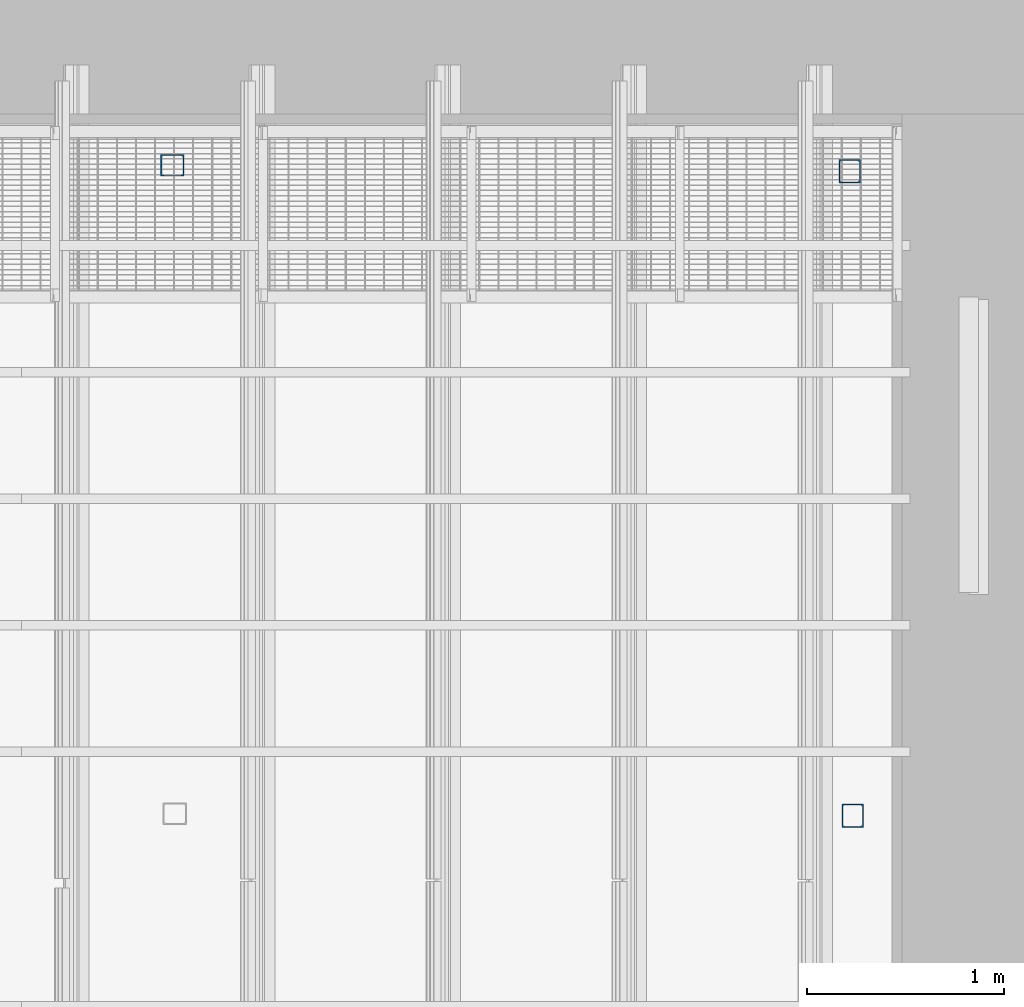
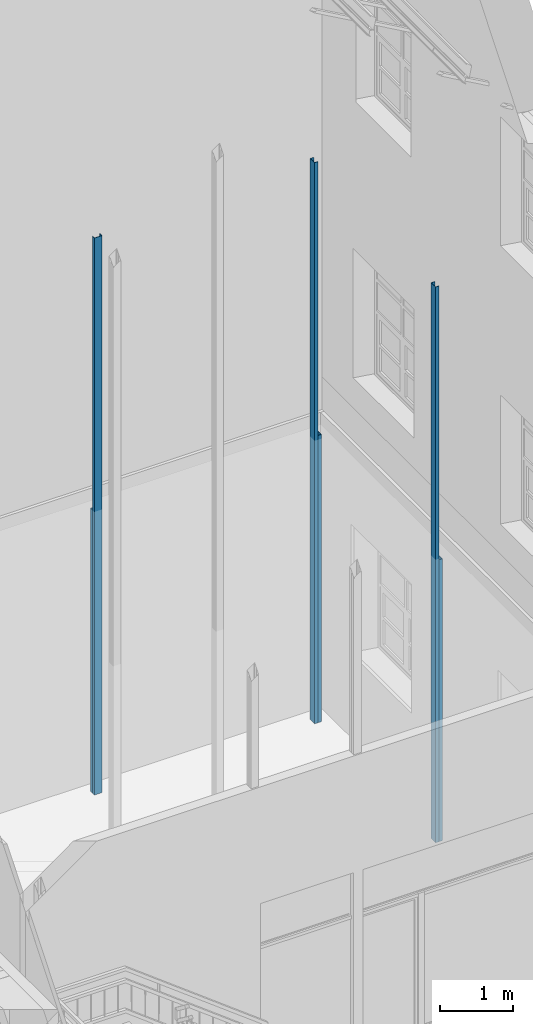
# One storey, part 14 of 75: 6 columns.
"""IFC2X3 building model written with IfcOpenShell, lengths in metres."""

from ifc_helpers import new_model, entity, si_unit, converted_unit, derived_unit, direction, frame, frame_2d, origin, place, context, subcontext, project, spatial, polyline, circle_curve, parameter, trimmed, segment, composite_curve, outline, extrude, source, transform, mapped, material, type_object, type_shapes, element, save


model = new_model("IFC2X3")

# Units and contexts
model_context = context("Model", 3, precision=1e-05, world=origin(), true_north=direction((6.12303176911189e-17, 1.0)))
body_context = subcontext(model_context, "Body", "Model", "MODEL_VIEW")
ifc_project = project(units=[si_unit("LENGTHUNIT", "METRE"), si_unit("AREAUNIT", "SQUARE_METRE"), si_unit("VOLUMEUNIT", "CUBIC_METRE"), converted_unit("PLANEANGLEUNIT", "DEGREE", entity("IfcRatioMeasure", 0.0174532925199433), si_unit("PLANEANGLEUNIT", "RADIAN"), dimensions=[0, 0, 0, 0, 0, 0, 0]), si_unit("MASSUNIT", "GRAM", prefix="KILO"), derived_unit("MASSDENSITYUNIT", [(si_unit("MASSUNIT", "GRAM", prefix="KILO"), 1), (si_unit("LENGTHUNIT", "METRE"), -3)]), derived_unit("MOMENTOFINERTIAUNIT", [(si_unit("LENGTHUNIT", "METRE"), 4)]), si_unit("TIMEUNIT", "SECOND"), si_unit("FREQUENCYUNIT", "HERTZ"), si_unit("THERMODYNAMICTEMPERATUREUNIT", "DEGREE_CELSIUS"), derived_unit("THERMALTRANSMITTANCEUNIT", [(si_unit("MASSUNIT", "GRAM", prefix="KILO"), 1), (si_unit("THERMODYNAMICTEMPERATUREUNIT", "KELVIN"), -1), (si_unit("TIMEUNIT", "SECOND"), -3)]), derived_unit("VOLUMETRICFLOWRATEUNIT", [(si_unit("LENGTHUNIT", "METRE"), 3), (si_unit("TIMEUNIT", "SECOND"), -1)]), si_unit("ELECTRICCURRENTUNIT", "AMPERE"), si_unit("ELECTRICVOLTAGEUNIT", "VOLT"), si_unit("POWERUNIT", "WATT"), si_unit("FORCEUNIT", "NEWTON", prefix="KILO"), si_unit("ILLUMINANCEUNIT", "LUX"), si_unit("LUMINOUSFLUXUNIT", "LUMEN"), si_unit("LUMINOUSINTENSITYUNIT", "CANDELA"), derived_unit("USERDEFINED", [(si_unit("MASSUNIT", "GRAM", prefix="KILO"), -1), (si_unit("LENGTHUNIT", "METRE"), -2), (si_unit("TIMEUNIT", "SECOND"), 3), (si_unit("LUMINOUSFLUXUNIT", "LUMEN"), 1)]), derived_unit("LINEARVELOCITYUNIT", [(si_unit("LENGTHUNIT", "METRE"), 1), (si_unit("TIMEUNIT", "SECOND"), -1)]), si_unit("PRESSUREUNIT", "PASCAL"), derived_unit("USERDEFINED", [(si_unit("LENGTHUNIT", "METRE"), -2), (si_unit("MASSUNIT", "GRAM", prefix="KILO"), 1), (si_unit("TIMEUNIT", "SECOND"), -2)]), derived_unit("LINEARFORCEUNIT", [(si_unit("MASSUNIT", "GRAM", prefix="KILO"), 1), (si_unit("LENGTHUNIT", "METRE"), 1), (si_unit("TIMEUNIT", "SECOND"), -2), (si_unit("LENGTHUNIT", "METRE"), -1)]), derived_unit("PLANARFORCEUNIT", [(si_unit("MASSUNIT", "GRAM", prefix="KILO"), 1), (si_unit("LENGTHUNIT", "METRE"), 1), (si_unit("TIMEUNIT", "SECOND"), -2), (si_unit("LENGTHUNIT", "METRE"), -2)])], contexts=[model_context])

# Site, building, storey
site_placement = place(None, origin())
site = spatial("IfcSite", under=ifc_project, at=site_placement, Name="Superficie", CompositionType="ELEMENT")
building_placement = place(site_placement, origin())
building = spatial("IfcBuilding", under=site, at=building_placement, Name="Telegestiones", CompositionType="ELEMENT")
storey_placement = place(building_placement, origin())
storey = spatial("IfcBuildingStorey", under=building, at=storey_placement, Name="Nivel 0_NPT", CompositionType="ELEMENT", Elevation=0.0)

# Columns
ifc_material = material(Name="Metal - Acero - 345 MPa")
column_type_1 = type_object("IfcColumnType", Name="UPE - Canales de ala paralela - Pilar:UPE 120", PredefinedType="COLUMN", material=ifc_material)
shared_shape_1 = source(origin(), body_context, "Body", "SweptSolid", [
    extrude(outline(composite_curve([segment(polyline([(-0.0599999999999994, -0.0264), (0.0600000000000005, -0.0264)]), True, "CONTINUOUS"), segment(polyline([(0.0600000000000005, -0.0264), (0.0600000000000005, 0.0286)]), True, "CONTINUOUS"), segment(polyline([(0.0600000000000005, 0.0286), (0.0539999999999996, 0.0286)]), True, "CONTINUOUS"), segment(polyline([(0.0539999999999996, 0.0286), (0.0539999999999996, -0.00939999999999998)]), True, "CONTINUOUS"), segment(trimmed(circle_curve(frame_2d((0.0419999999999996, -0.0094), x_axis=(1.0, 0.0)), 0.012), [parameter(270.0)], [parameter(0.0)], True, "PARAMETER"), False, "CONTINUOUS"), segment(polyline([(0.0419999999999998, -0.0214), (-0.0420000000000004, -0.0214)]), True, "CONTINUOUS"), segment(trimmed(circle_curve(frame_2d((-0.0420000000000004, -0.00940000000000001), x_axis=(0.0, -1.0)), 0.012), [parameter(270.0)], [parameter(0.0)], True, "PARAMETER"), False, "CONTINUOUS"), segment(polyline([(-0.0540000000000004, -0.0094), (-0.0540000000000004, 0.0286)]), True, "CONTINUOUS"), segment(polyline([(-0.0540000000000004, 0.0286), (-0.0599999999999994, 0.0286)]), True, "CONTINUOUS"), segment(polyline([(-0.0599999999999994, 0.0286), (-0.0599999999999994, -0.0264)]), True, "CONTINUOUS")], self_intersect=False)), frame((0.00660000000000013, 0.0, 0.0), z_axis=(0.0, 0.0, 1.0), x_axis=(0.0, -1.0, 0.0)), (0.0, 0.0, 1.0), 9.27),
])
type_shapes(column_type_1, [shared_shape_1])
column_1_placement = place(storey_placement, frame((11.2608126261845, 13.4484072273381, 0.0), z_axis=(0.0, 0.0, 1.0), x_axis=(0.0, 1.0, 0.0)))
element("IfcColumn", 1, at=column_1_placement, inside=storey, type_object=column_type_1, Name="UPE - Canales de ala paralela - Pilar:UPE 120", ObjectType="UPE - Canales de ala paralela - Pilar:UPE 120", context=body_context, shape_type="MappedRepresentation", body=[
    mapped(shared_shape_1, transform((0.0, 0.0, 0.0), scale=1.0)),
])
column_type_2 = type_object("IfcColumnType", Name="UPE - Canales de ala paralela - Pilar:UPE 120", PredefinedType="COLUMN", material=ifc_material)
shared_shape_2 = source(origin(), body_context, "Body", "SweptSolid", [
    extrude(outline(composite_curve([segment(polyline([(-0.0599999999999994, -0.0264), (0.0600000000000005, -0.0264)]), True, "CONTINUOUS"), segment(polyline([(0.0600000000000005, -0.0264), (0.0600000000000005, 0.0286)]), True, "CONTINUOUS"), segment(polyline([(0.0600000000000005, 0.0286), (0.0539999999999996, 0.0286)]), True, "CONTINUOUS"), segment(polyline([(0.0539999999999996, 0.0286), (0.0539999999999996, -0.00939999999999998)]), True, "CONTINUOUS"), segment(trimmed(circle_curve(frame_2d((0.0419999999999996, -0.0094), x_axis=(1.0, 0.0)), 0.012), [parameter(270.0)], [parameter(0.0)], True, "PARAMETER"), False, "CONTINUOUS"), segment(polyline([(0.0419999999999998, -0.0214), (-0.0420000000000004, -0.0214)]), True, "CONTINUOUS"), segment(trimmed(circle_curve(frame_2d((-0.0420000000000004, -0.00940000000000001), x_axis=(0.0, -1.0)), 0.012), [parameter(270.0)], [parameter(0.0)], True, "PARAMETER"), False, "CONTINUOUS"), segment(polyline([(-0.0540000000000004, -0.0094), (-0.0540000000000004, 0.0286)]), True, "CONTINUOUS"), segment(polyline([(-0.0540000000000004, 0.0286), (-0.0599999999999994, 0.0286)]), True, "CONTINUOUS"), segment(polyline([(-0.0599999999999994, 0.0286), (-0.0599999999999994, -0.0264)]), True, "CONTINUOUS")], self_intersect=False)), frame((0.00660000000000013, 0.0, 0.0), z_axis=(0.0, 0.0, 1.0), x_axis=(0.0, -1.0, 0.0)), (0.0, 0.0, 1.0), 9.34),
])
type_shapes(column_type_2, [shared_shape_2])
column_2_placement = place(storey_placement, frame((14.6646126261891, 13.4536072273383, 0.0)))
element("IfcColumn", 2, at=column_2_placement, inside=storey, type_object=column_type_2, Name="UPE - Canales de ala paralela - Pilar:UPE 120", ObjectType="UPE - Canales de ala paralela - Pilar:UPE 120", context=body_context, shape_type="MappedRepresentation", body=[
    mapped(shared_shape_2, transform((0.0, 0.0, 0.0), scale=1.0)),
])
column_type_3 = type_object("IfcColumnType", Name="UPE - Canales de ala paralela - Pilar:UPE 120", PredefinedType="COLUMN", material=ifc_material)
shared_shape_3 = source(origin(), body_context, "Body", "SweptSolid", [
    extrude(outline(composite_curve([segment(polyline([(-0.0599999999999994, -0.0264), (0.0600000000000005, -0.0264)]), True, "CONTINUOUS"), segment(polyline([(0.0600000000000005, -0.0264), (0.0600000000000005, 0.0286)]), True, "CONTINUOUS"), segment(polyline([(0.0600000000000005, 0.0286), (0.0539999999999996, 0.0286)]), True, "CONTINUOUS"), segment(polyline([(0.0539999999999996, 0.0286), (0.0539999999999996, -0.00939999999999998)]), True, "CONTINUOUS"), segment(trimmed(circle_curve(frame_2d((0.0419999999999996, -0.0094), x_axis=(1.0, 0.0)), 0.012), [parameter(270.0)], [parameter(0.0)], True, "PARAMETER"), False, "CONTINUOUS"), segment(polyline([(0.0419999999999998, -0.0214), (-0.0420000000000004, -0.0214)]), True, "CONTINUOUS"), segment(trimmed(circle_curve(frame_2d((-0.0420000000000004, -0.00940000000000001), x_axis=(0.0, -1.0)), 0.012), [parameter(270.0)], [parameter(0.0)], True, "PARAMETER"), False, "CONTINUOUS"), segment(polyline([(-0.0540000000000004, -0.0094), (-0.0540000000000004, 0.0286)]), True, "CONTINUOUS"), segment(polyline([(-0.0540000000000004, 0.0286), (-0.0599999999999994, 0.0286)]), True, "CONTINUOUS"), segment(polyline([(-0.0599999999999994, 0.0286), (-0.0599999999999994, -0.0264)]), True, "CONTINUOUS")], self_intersect=False)), frame((0.00660000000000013, 0.0, 0.0), z_axis=(0.0, 0.0, 1.0), x_axis=(0.0, -1.0, 0.0)), (0.0, 0.0, 1.0), 9.25),
])
type_shapes(column_type_3, [shared_shape_3])
column_3_placement = place(storey_placement, frame((14.6796126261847, 10.1816072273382, 0.0)))
element("IfcColumn", 3, at=column_3_placement, inside=storey, type_object=column_type_3, Name="UPE - Canales de ala paralela - Pilar:UPE 120", ObjectType="UPE - Canales de ala paralela - Pilar:UPE 120", context=body_context, shape_type="MappedRepresentation", body=[
    mapped(shared_shape_3, transform((0.0, 0.0, 0.0), scale=1.0)),
])
column_type_4 = type_object("IfcColumnType", Name="UPE - Canales de ala paralela - Pilar:UPE 120", PredefinedType="COLUMN", material=ifc_material)
shared_shape_4 = source(origin(), body_context, "Body", "SweptSolid", [
    extrude(outline(composite_curve([segment(polyline([(-0.0600000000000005, -0.0264), (0.0599999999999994, -0.0264)]), True, "CONTINUOUS"), segment(polyline([(0.0599999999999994, -0.0264), (0.0599999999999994, 0.0286)]), True, "CONTINUOUS"), segment(polyline([(0.0599999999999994, 0.0286), (0.0540000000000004, 0.0286)]), True, "CONTINUOUS"), segment(polyline([(0.0540000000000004, 0.0286), (0.0540000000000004, -0.00939999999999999)]), True, "CONTINUOUS"), segment(trimmed(circle_curve(frame_2d((0.0420000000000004, -0.00939999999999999), x_axis=(1.0, 0.0)), 0.012), [parameter(270.0)], [parameter(0.0)], True, "PARAMETER"), False, "CONTINUOUS"), segment(polyline([(0.0420000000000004, -0.0214), (-0.0419999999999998, -0.0214)]), True, "CONTINUOUS"), segment(trimmed(circle_curve(frame_2d((-0.0419999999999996, -0.00939999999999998), x_axis=(0.0, -1.0)), 0.012), [parameter(270.0)], [parameter(0.0)], True, "PARAMETER"), False, "CONTINUOUS"), segment(polyline([(-0.0539999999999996, -0.00939999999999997), (-0.0539999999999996, 0.0286)]), True, "CONTINUOUS"), segment(polyline([(-0.0539999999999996, 0.0286), (-0.0600000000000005, 0.0286)]), True, "CONTINUOUS"), segment(polyline([(-0.0600000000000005, 0.0286), (-0.0600000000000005, -0.0264)]), True, "CONTINUOUS")], self_intersect=False)), frame((0.00660000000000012, 0.0, 0.0), z_axis=(0.0, 0.0, 1.0), x_axis=(0.0, -1.0, 0.0)), (0.0, 0.0, 1.0), 4.71),
])
type_shapes(column_type_4, [shared_shape_4])
column_4_placement = place(storey_placement, frame((11.2608126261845, 13.5188072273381, 0.0), z_axis=(0.0, 0.0, 1.0), x_axis=(0.0, -1.0, 0.0)))
element("IfcColumn", 4, at=column_4_placement, inside=storey, type_object=column_type_4, Name="UPE - Canales de ala paralela - Pilar:UPE 120", ObjectType="UPE - Canales de ala paralela - Pilar:UPE 120", context=body_context, shape_type="MappedRepresentation", body=[
    mapped(shared_shape_4, transform((0.0, 0.0, 0.0), scale=1.0)),
])
column_type_5 = type_object("IfcColumnType", Name="UPE - Canales de ala paralela - Pilar:UPE 120", PredefinedType="COLUMN", material=ifc_material)
shared_shape_5 = source(origin(), body_context, "Body", "SweptSolid", [
    extrude(outline(composite_curve([segment(polyline([(-0.0600000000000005, -0.0264), (0.0599999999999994, -0.0264)]), True, "CONTINUOUS"), segment(polyline([(0.0599999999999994, -0.0264), (0.0599999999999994, 0.0286)]), True, "CONTINUOUS"), segment(polyline([(0.0599999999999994, 0.0286), (0.0540000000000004, 0.0286)]), True, "CONTINUOUS"), segment(polyline([(0.0540000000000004, 0.0286), (0.0540000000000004, -0.00939999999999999)]), True, "CONTINUOUS"), segment(trimmed(circle_curve(frame_2d((0.0420000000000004, -0.00939999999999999), x_axis=(1.0, 0.0)), 0.012), [parameter(270.0)], [parameter(0.0)], True, "PARAMETER"), False, "CONTINUOUS"), segment(polyline([(0.0420000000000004, -0.0214), (-0.0419999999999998, -0.0214)]), True, "CONTINUOUS"), segment(trimmed(circle_curve(frame_2d((-0.0419999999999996, -0.00939999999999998), x_axis=(0.0, -1.0)), 0.012), [parameter(270.0)], [parameter(0.0)], True, "PARAMETER"), False, "CONTINUOUS"), segment(polyline([(-0.0539999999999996, -0.00939999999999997), (-0.0539999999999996, 0.0286)]), True, "CONTINUOUS"), segment(polyline([(-0.0539999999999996, 0.0286), (-0.0600000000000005, 0.0286)]), True, "CONTINUOUS"), segment(polyline([(-0.0600000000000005, 0.0286), (-0.0600000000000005, -0.0264)]), True, "CONTINUOUS")], self_intersect=False)), frame((0.00660000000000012, 0.0, 0.0), z_axis=(0.0, 0.0, 1.0), x_axis=(0.0, -1.0, 0.0)), (0.0, 0.0, 1.0), 4.69),
])
type_shapes(column_type_5, [shared_shape_5])
column_5_placement = place(storey_placement, frame((14.7500126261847, 10.1816072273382, 0.0), z_axis=(0.0, 0.0, 1.0), x_axis=(-1.0, 0.0, 0.0)))
element("IfcColumn", 5, at=column_5_placement, inside=storey, type_object=column_type_5, Name="UPE - Canales de ala paralela - Pilar:UPE 120", ObjectType="UPE - Canales de ala paralela - Pilar:UPE 120", context=body_context, shape_type="MappedRepresentation", body=[
    mapped(shared_shape_5, transform((0.0, 0.0, 0.0), scale=1.0)),
])
column_type_6 = type_object("IfcColumnType", Name="UPE - Canales de ala paralela - Pilar:UPE 120", PredefinedType="COLUMN", material=ifc_material)
shared_shape_6 = source(origin(), body_context, "Body", "SweptSolid", [
    extrude(outline(composite_curve([segment(polyline([(-0.0600000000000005, -0.0264), (0.0599999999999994, -0.0264)]), True, "CONTINUOUS"), segment(polyline([(0.0599999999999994, -0.0264), (0.0599999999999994, 0.0286)]), True, "CONTINUOUS"), segment(polyline([(0.0599999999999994, 0.0286), (0.0540000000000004, 0.0286)]), True, "CONTINUOUS"), segment(polyline([(0.0540000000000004, 0.0286), (0.0540000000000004, -0.00939999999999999)]), True, "CONTINUOUS"), segment(trimmed(circle_curve(frame_2d((0.0420000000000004, -0.00939999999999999), x_axis=(1.0, 0.0)), 0.012), [parameter(270.0)], [parameter(0.0)], True, "PARAMETER"), False, "CONTINUOUS"), segment(polyline([(0.0420000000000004, -0.0214), (-0.0419999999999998, -0.0214)]), True, "CONTINUOUS"), segment(trimmed(circle_curve(frame_2d((-0.0419999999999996, -0.00939999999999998), x_axis=(0.0, -1.0)), 0.012), [parameter(270.0)], [parameter(0.0)], True, "PARAMETER"), False, "CONTINUOUS"), segment(polyline([(-0.0539999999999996, -0.00939999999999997), (-0.0539999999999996, 0.0286)]), True, "CONTINUOUS"), segment(polyline([(-0.0539999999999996, 0.0286), (-0.0600000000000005, 0.0286)]), True, "CONTINUOUS"), segment(polyline([(-0.0600000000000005, 0.0286), (-0.0600000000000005, -0.0264)]), True, "CONTINUOUS")], self_intersect=False)), frame((0.00660000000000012, 0.0, 0.0), z_axis=(0.0, 0.0, 1.0), x_axis=(0.0, -1.0, 0.0)), (0.0, 0.0, 1.0), 4.78),
])
type_shapes(column_type_6, [shared_shape_6])
column_6_placement = place(storey_placement, frame((14.7350126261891, 13.4536072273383, 0.0), z_axis=(0.0, 0.0, 1.0), x_axis=(-1.0, 0.0, 0.0)))
element("IfcColumn", 6, at=column_6_placement, inside=storey, type_object=column_type_6, Name="UPE - Canales de ala paralela - Pilar:UPE 120", ObjectType="UPE - Canales de ala paralela - Pilar:UPE 120", context=body_context, shape_type="MappedRepresentation", body=[
    mapped(shared_shape_6, transform((0.0, 0.0, 0.0), scale=1.0)),
])

save(model, "model.ifc")
